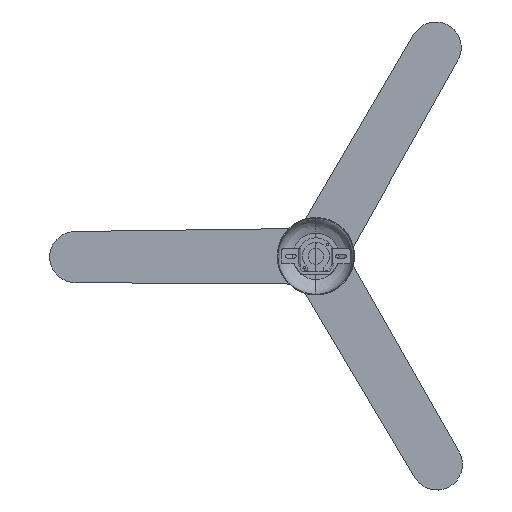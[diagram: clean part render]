
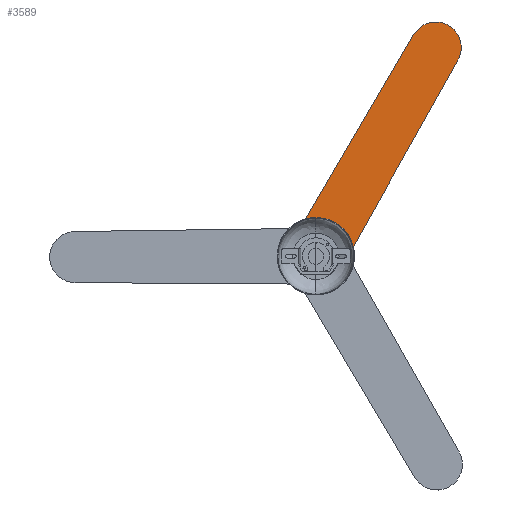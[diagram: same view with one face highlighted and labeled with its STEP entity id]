
A CAD part, top view. The second image highlights one B-rep face of the part: STEP entity #3589.
In plain terms, the highlighted planar face has unit normal (0, -0.001, 1) as drawn and (0, 0, -1) by its records, which use the part's own axes.
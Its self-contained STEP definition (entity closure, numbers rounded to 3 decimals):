
#280=TRIMMED_CURVE($,#611,(#14153),(#14154),.T.,.CARTESIAN.);
#611=CIRCLE('',#11022,43.042);
#3589=ADVANCED_FACE('',(#3851),#9652,.T.);
#3851=FACE_OUTER_BOUND('',#4127,.T.);
#4127=EDGE_LOOP('',(#4837,#4838,#4839,#4840));
#4837=ORIENTED_EDGE('',*,*,#6251,.T.);
#4838=ORIENTED_EDGE('',*,*,#6252,.T.);
#4839=ORIENTED_EDGE('',*,*,#6253,.T.);
#4840=ORIENTED_EDGE('',*,*,#6254,.T.);
#6251=EDGE_CURVE('',#8728,#8729,#7526,.T.);
#6252=EDGE_CURVE('',#8729,#8730,#280,.T.);
#6253=EDGE_CURVE('',#8730,#8731,#7527,.T.);
#6254=EDGE_CURVE('',#8731,#8728,#7528,.T.);
#7526=B_SPLINE_CURVE_WITH_KNOTS('',1,(#14150,#14151),.UNSPECIFIED.,.F.,
 .F.,(2,2),(0.,373.746),.UNSPECIFIED.);
#7527=B_SPLINE_CURVE_WITH_KNOTS('',1,(#14155,#14156),.UNSPECIFIED.,.F.,
 .F.,(2,2),(0.,376.293),.UNSPECIFIED.);
#7528=B_SPLINE_CURVE_WITH_KNOTS('',1,(#14157,#14158),.UNSPECIFIED.,.F.,
 .F.,(2,2),(0.,93.437),.UNSPECIFIED.);
#8728=VERTEX_POINT('',#14146);
#8729=VERTEX_POINT('',#14147);
#8730=VERTEX_POINT('',#14148);
#8731=VERTEX_POINT('',#14149);
#9652=PLANE('',#11021);
#11021=AXIS2_PLACEMENT_3D('',#14145,#11731,$);
#11022=AXIS2_PLACEMENT_3D($,#14152,#11732,#11733);
#11731=DIRECTION('',(0.,0.,-1.));
#11732=DIRECTION('',(0.,0.,-1.));
#11733=DIRECTION('',(-0.842,-0.539,0.));
#14145=CARTESIAN_POINT('',(258.24,79.26,184.665));
#14146=CARTESIAN_POINT('',(-55.063,1.664,184.665));
#14147=CARTESIAN_POINT('',(-237.607,327.799,184.665));
#14148=CARTESIAN_POINT('',(-164.219,372.762,184.665));
#14149=CARTESIAN_POINT('',(26.019,48.098,184.665));
#14150=CARTESIAN_POINT('',(-55.063,1.664,184.665));
#14151=CARTESIAN_POINT('',(-237.607,327.799,184.665));
#14152=CARTESIAN_POINT('',(-201.355,351.002,184.665));
#14153=CARTESIAN_POINT('',(-237.607,327.799,184.665));
#14154=CARTESIAN_POINT('',(-164.219,372.762,184.665));
#14155=CARTESIAN_POINT('',(-164.219,372.762,184.665));
#14156=CARTESIAN_POINT('',(26.019,48.098,184.665));
#14157=CARTESIAN_POINT('',(26.019,48.098,184.665));
#14158=CARTESIAN_POINT('',(-55.063,1.664,184.665));
